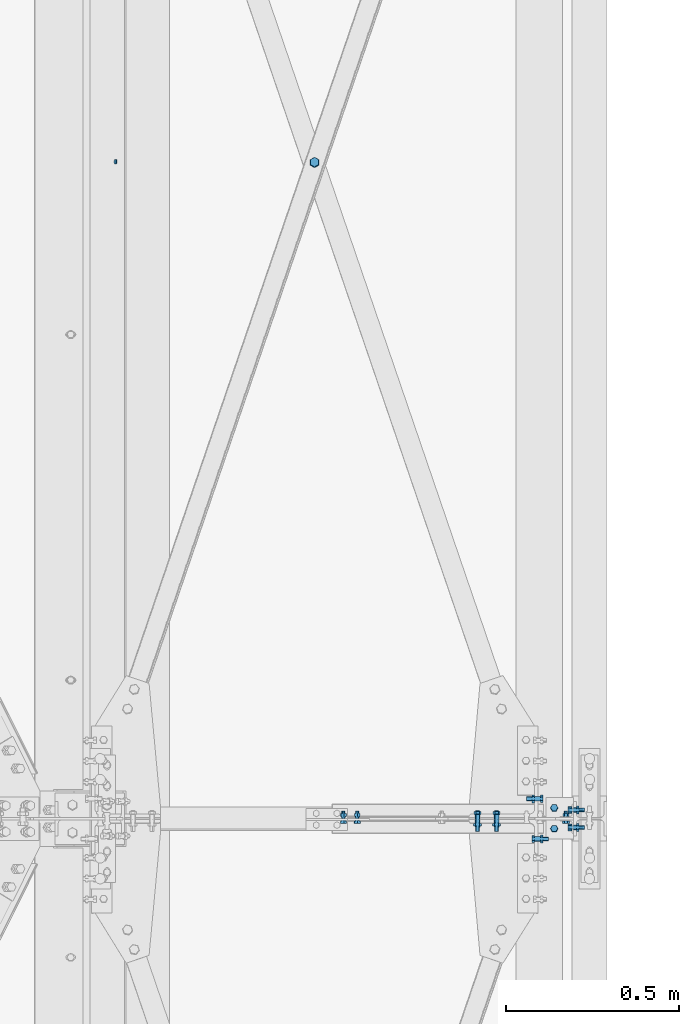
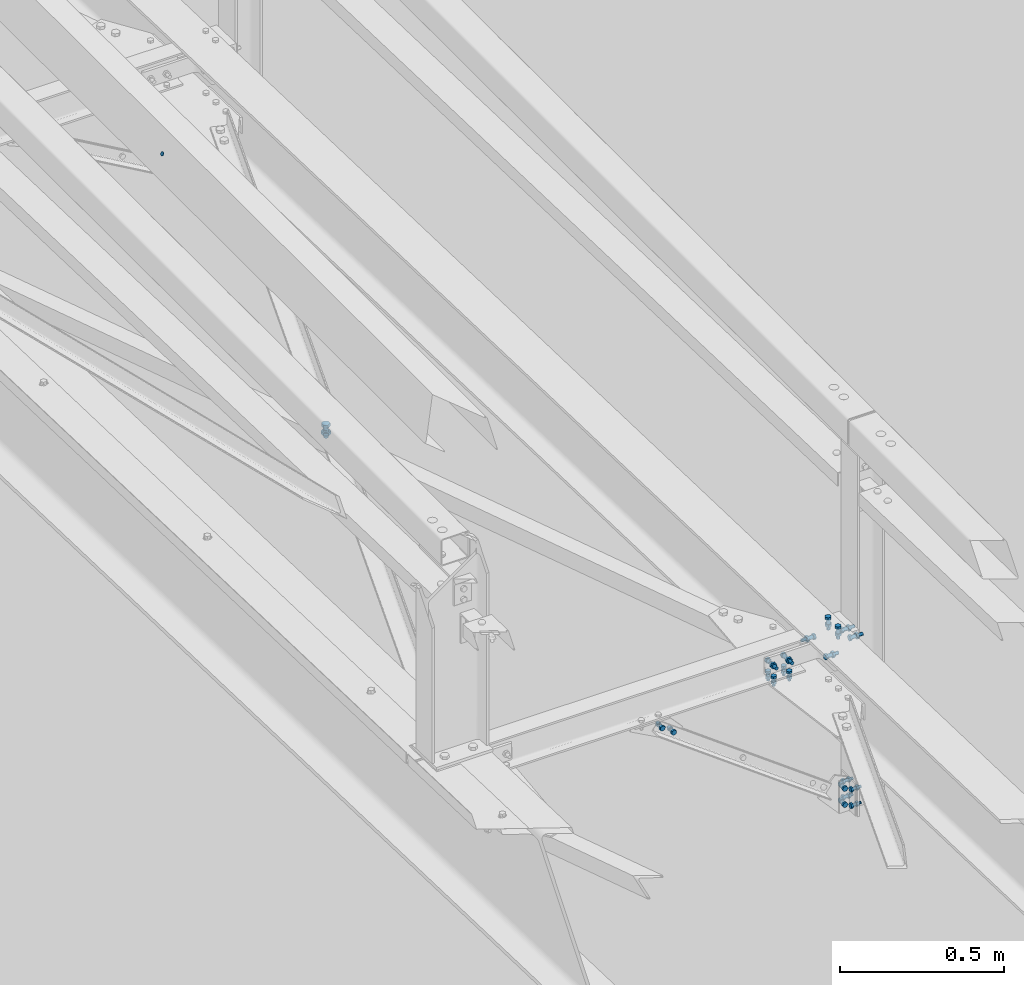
# One storey, part 328 of 362: 13 mechanical fasteners.
"""IFC2X3 building model written with IfcOpenShell, lengths in millimetres."""

import ifcopenshell
import ifcopenshell.guid

model = None  # the IFC model being written
_history = None  # IfcOwnerHistory: only IFC2X3 demands one
_inside = {}  # id of a spatial element -> (the spatial element, [elements in it])
_under = {}  # id of a project, library or spatial element -> (it, [spatial elements below it])
_declared = {}  # id of a project -> (the project, [libraries it declares])
_typed = {}  # id of a type object -> (the type object, [elements of that type])
_made_of = {}  # id of a material, layer set ... -> (it, [elements and type objects made of it])


def new_model(schema):
    """Start an empty IFC model of exactly this schema.

    Asked for "IFC4X3", IfcOpenShell would pick the latest addendum, in which some entities
    have other attributes; the version numbers below select the first issue.
    IFC2X3 requires an IfcOwnerHistory on every rooted entity: one is made here for all.
    """
    global model, _history
    if schema == "IFC4X3":
        model = ifcopenshell.file(schema_version=(4, 3, 0, 0))
    else:
        model = ifcopenshell.file(schema=schema)
    _inside.clear()
    _under.clear()
    _declared.clear()
    _typed.clear()
    _made_of.clear()
    _history = None
    if model.schema == "IFC2X3":
        org = make("IfcOrganization", Name="unknown")
        user = make(
            "IfcPersonAndOrganization",
            ThePerson=make("IfcPerson", FamilyName="unknown"),
            TheOrganization=org,
        )
        app = make(
            "IfcApplication",
            ApplicationDeveloper=org,
            Version="unknown",
            ApplicationFullName="unknown",
            ApplicationIdentifier="unknown",
        )
        _history = make(
            "IfcOwnerHistory",
            OwningUser=user,
            OwningApplication=app,
            ChangeAction="ADDED",
            CreationDate=0,
        )
    return model


def make(cls, **values):
    """One entity of the class cls with the attributes given. An attribute that is None is left unset."""
    return model.create_entity(
        cls, **{name: value for name, value in values.items() if value is not None}
    )


def rooted(cls, **values):
    """An entity with a GlobalId (a new one), such as an element, a storey or a relation."""
    return make(cls, GlobalId=ifcopenshell.guid.new(), OwnerHistory=_history, **values)


def si_unit(unit_type, name, prefix=None):
    """IfcSIUnit, for example si_unit("LENGTHUNIT", "METRE", prefix="MILLI")."""
    return make("IfcSIUnit", UnitType=unit_type, Prefix=prefix, Name=name)


def assignment(units):
    """IfcUnitAssignment: the units of a project."""
    return None if units is None else make("IfcUnitAssignment", Units=units)


def point(xyz):
    """IfcCartesianPoint."""
    return None if xyz is None else make("IfcCartesianPoint", Coordinates=xyz)


def direction(xyz):
    """IfcDirection."""
    return None if xyz is None else make("IfcDirection", DirectionRatios=xyz)


def frame(location, z_axis=None, x_axis=None):
    """IfcAxis2Placement3D, a coordinate frame: its origin and axes. An axis left out is left unset."""
    return make(
        "IfcAxis2Placement3D",
        Location=point(location),
        Axis=direction(z_axis),
        RefDirection=direction(x_axis),
    )


def frame_2d(location, x_axis=None):
    """IfcAxis2Placement2D, a coordinate frame in the plane: its origin and x axis."""
    return make(
        "IfcAxis2Placement2D", Location=point(location), RefDirection=direction(x_axis)
    )


def origin_with_axes():
    """The frame at (0, 0, 0) with the z axis (0, 0, 1) and the x axis (1, 0, 0) written out."""
    return frame((0.0, 0.0, 0.0), z_axis=(0.0, 0.0, 1.0), x_axis=(1.0, 0.0, 0.0))


def origin_2d_with_axis():
    """The frame at (0, 0) in the plane with the x axis (1, 0) written out."""
    return frame_2d((0.0, 0.0), x_axis=(1.0, 0.0))


def place(relative_to, where):
    """IfcLocalPlacement: puts the frame where relative to a parent placement (None: the world)."""
    return make(
        "IfcLocalPlacement", PlacementRelTo=relative_to, RelativePlacement=where
    )


def context(
    kind, dimensions, precision=None, world=None, true_north=None, identifier=None
):
    """IfcGeometricRepresentationContext, for example the 3D "Model" context."""
    return make(
        "IfcGeometricRepresentationContext",
        ContextIdentifier=identifier,
        ContextType=kind,
        CoordinateSpaceDimension=dimensions,
        Precision=precision,
        WorldCoordinateSystem=world,
        TrueNorth=true_north,
    )


def subcontext(parent, identifier, kind, view, scale=None):
    """IfcGeometricRepresentationSubContext, for example "Body" below "Model"."""
    return make(
        "IfcGeometricRepresentationSubContext",
        ContextIdentifier=identifier,
        ContextType=kind,
        ParentContext=parent,
        TargetScale=scale,
        TargetView=view,
    )


def project(units=None, contexts=None):
    """IfcProject with its units and contexts."""
    return rooted(
        "IfcProject",
        Name="project",
        RepresentationContexts=contexts,
        UnitsInContext=assignment(units),
    )


def spatial(cls, under=None, at=None, **own):
    """A site, building, storey or space (cls), placed at a placement, below another one or the project."""
    s = rooted(cls, ObjectPlacement=at, **own)
    if under is not None:
        _under.setdefault(under.id(), (under, []))[1].append(s)
    return s


def polyline(points):
    """IfcPolyline through the points."""
    return make("IfcPolyline", Points=[point(p) for p in points])


def profile(cls, at=None, kind="AREA", **sizes):
    """A parametric profile (cls). Its sizes go by their IFC names, for example OverallWidth=200.0."""
    return make(cls, ProfileType=kind, Position=at, **sizes)


def circle(**sizes):
    """IfcCircleProfileDef."""
    return profile("IfcCircleProfileDef", **sizes)


def outline(outer, holes=None, kind="AREA"):
    """IfcArbitraryClosedProfileDef: a profile drawn as a closed curve; with holes, ...WithVoids."""
    if holes is None:
        return make("IfcArbitraryClosedProfileDef", ProfileType=kind, OuterCurve=outer)
    return make(
        "IfcArbitraryProfileDefWithVoids",
        ProfileType=kind,
        OuterCurve=outer,
        InnerCurves=holes,
    )


def extrude(swept, where, along, depth):
    """IfcExtrudedAreaSolid: the profile swept, set in the frame where, extruded along a direction by depth."""
    return make(
        "IfcExtrudedAreaSolid",
        SweptArea=swept,
        Position=where,
        ExtrudedDirection=direction(along),
        Depth=depth,
    )


def shape(context_of_items, identifier, shape_type, items):
    """IfcShapeRepresentation: the items that make up one representation, for example the "Body"."""
    return make(
        "IfcShapeRepresentation",
        ContextOfItems=context_of_items,
        RepresentationIdentifier=identifier,
        RepresentationType=shape_type,
        Items=items,
    )


def source(mapping_origin, context_of_items, identifier, shape_type, items):
    """IfcRepresentationMap: a shape defined once, which mapped items show again and again."""
    return make(
        "IfcRepresentationMap",
        MappingOrigin=mapping_origin,
        MappedRepresentation=shape(context_of_items, identifier, shape_type, items),
    )


def transform(
    local_origin,
    x_axis=None,
    y_axis=None,
    z_axis=None,
    scale=None,
    scale2=None,
    scale3=None,
    uniform=True,
):
    """IfcCartesianTransformationOperator3D, or its non-uniform kind. x_axis, y_axis, z_axis: its Axis1, 2, 3."""
    if uniform:
        return make(
            "IfcCartesianTransformationOperator3D",
            Axis1=direction(x_axis),
            Axis2=direction(y_axis),
            LocalOrigin=point(local_origin),
            Scale=scale,
            Axis3=direction(z_axis),
        )
    return make(
        "IfcCartesianTransformationOperator3DnonUniform",
        Axis1=direction(x_axis),
        Axis2=direction(y_axis),
        LocalOrigin=point(local_origin),
        Scale=scale,
        Axis3=direction(z_axis),
        Scale2=scale2,
        Scale3=scale3,
    )


def mapped(mapping_source, mapping_target):
    """IfcMappedItem: shows the shape of a source again, moved by a transform."""
    return make(
        "IfcMappedItem", MappingSource=mapping_source, MappingTarget=mapping_target
    )


def material(Name=None, Category=None):
    """IfcMaterial."""
    return make("IfcMaterial", Name=Name, Category=Category)


def made_of(thing, what):
    """Note that an element or type object is made of a material, layer set ...; save() writes the relation."""
    if what is not None:
        _made_of.setdefault(what.id(), (what, []))[1].append(thing)
    return thing


def type_object(cls, material=None, **own):
    """A type object (cls), such as IfcWallType, which elements share."""
    return made_of(rooted(cls, **own), material)


def element(
    cls,
    number,
    at=None,
    inside=None,
    cuts=None,
    type_object=None,
    material=None,
    context=None,
    identifier="Body",
    shape_type=None,
    held_by="IfcProductDefinitionShape",
    body=None,
    shapes=None,
    **own,
):
    """One element of the class cls, such as IfcWall. Its Tag is "e" and its number.

    at: its placement. inside: the storey or other place that contains it. cuts: it is an
    opening in that element (IfcRelVoidsElement). A single representation is given by context,
    identifier, shape_type and body (its items); several are given by shapes. held_by: the class
    of the entity that holds the representations. save() writes the other relations.
    """
    e = rooted(cls, Tag="e%d" % number, ObjectPlacement=at, **own)
    if body is not None:
        shapes = [shape(context, identifier, shape_type, body)]
    if shapes is not None:
        e.Representation = make(held_by, Representations=shapes)
    if inside is not None:
        _inside.setdefault(inside.id(), (inside, []))[1].append(e)
    if cuts is not None:
        rooted(
            "IfcRelVoidsElement", RelatingBuildingElement=cuts, RelatedOpeningElement=e
        )
    if type_object is not None:
        _typed.setdefault(type_object.id(), (type_object, []))[1].append(e)
    return made_of(e, material)


def aggregate(whole, parts):
    """IfcRelAggregates: a whole, such as a stair, and the parts it consists of."""
    return rooted("IfcRelAggregates", RelatingObject=whole, RelatedObjects=parts)


def save(model, path):
    """Write the relations noted so far, then the file.

    IfcRelAggregates (storeys below a building ...), IfcRelContainedInSpatialStructure (elements
    in a storey), IfcRelDefinesByType, IfcRelAssociatesMaterial and IfcRelDeclares: one each for
    every whole, place, type object, material and project.
    """
    for whole, parts in _under.values():
        aggregate(whole, parts)
    for where, things in _inside.values():
        rooted(
            "IfcRelContainedInSpatialStructure",
            RelatedElements=things,
            RelatingStructure=where,
        )
    for kind, things in _typed.values():
        rooted("IfcRelDefinesByType", RelatedObjects=things, RelatingType=kind)
    for what, things in _made_of.values():
        rooted("IfcRelAssociatesMaterial", RelatedObjects=things, RelatingMaterial=what)
    for by, libraries in _declared.values():
        rooted("IfcRelDeclares", RelatingContext=by, RelatedDefinitions=libraries)
    model.write(path)


model = new_model("IFC2X3")

# Units and contexts
model_context = context("Model", 3, precision=1e-05, world=origin_with_axes())
body_context = subcontext(model_context, "Body", "Model", "MODEL_VIEW")
ifc_project = project(units=[si_unit("LENGTHUNIT", "METRE", prefix="MILLI"), si_unit("AREAUNIT", "SQUARE_METRE"), si_unit("VOLUMEUNIT", "CUBIC_METRE"), si_unit("MASSUNIT", "GRAM", prefix="KILO"), si_unit("TIMEUNIT", "SECOND"), si_unit("PLANEANGLEUNIT", "RADIAN"), si_unit("SOLIDANGLEUNIT", "STERADIAN"), si_unit("THERMODYNAMICTEMPERATUREUNIT", "DEGREE_CELSIUS"), si_unit("LUMINOUSINTENSITYUNIT", "LUMEN")], contexts=[model_context])

# Site, building, storey
site_placement = place(None, origin_with_axes())
site = spatial("IfcSite", under=ifc_project, at=site_placement, Name="Undefined", CompositionType="ELEMENT")
building_placement = place(site_placement, origin_with_axes())
building = spatial("IfcBuilding", under=site, at=building_placement, Name="Undefined", CompositionType="ELEMENT")
storey_placement = place(building_placement, origin_with_axes())
storey = spatial("IfcBuildingStorey", under=building, at=storey_placement, Name="Undefined", CompositionType="ELEMENT", Elevation=0.0)

# Mechanical fasteners
ifc_material_1 = material(Name="6.8")
mechanical_fastener_type = type_object("IfcMechanicalFastenerType", Name="Bolt assembly")
shared_shape_1 = source(origin_with_axes(), body_context, "Body", "SweptSolid", [
    extrude(circle(Radius=7.0, at=origin_2d_with_axis()), frame((0.0, 0.0, 0.0), z_axis=(0.0, 1.0, 0.0), x_axis=(1.0, 0.0, 0.0)), (0.0, 0.0, 1.0), 3.1),
])
mechanical_fastener_1_placement = place(storey_placement, frame((38403.4787428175, 9500.0, 8852.76597264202), z_axis=(0.0, -1.0, 0.0), x_axis=(-0.441220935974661, 0.0, -0.89739850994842)))
element("IfcMechanicalFastener", 1, at=mechanical_fastener_1_placement, inside=storey, type_object=mechanical_fastener_type, material=ifc_material_1, Name="Bolt assembly", NominalDiameter=12.0, NominalLength=3.0, context=body_context, shape_type="MappedRepresentation", body=[
    mapped(shared_shape_1, transform((0.0, 0.0, 0.0))),
])
shared_shape_2 = source(origin_with_axes(), body_context, "Body", "SweptSolid", [
    extrude(circle(Radius=6.0, at=origin_2d_with_axis()), frame((0.0, -6.9, 0.0), z_axis=(0.0, 1.0, 0.0), x_axis=(1.0, 0.0, 0.0)), (0.0, 0.0, 1.0), 4.0),
    extrude(circle(Radius=6.0, at=origin_2d_with_axis()), frame((0.0, 2.90000527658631, 0.0), z_axis=(0.0, 1.0, 0.0), x_axis=(1.0, 0.0, 0.0)), (0.0, 0.0, 1.0), 4.1),
    extrude(circle(Radius=6.0, at=origin_2d_with_axis()), frame((0.0, -2.99999932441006, 0.0), z_axis=(0.0, 1.0, 0.0), x_axis=(1.0, 0.0, 0.0)), (0.0, 0.0, 1.0), 6.0),
    extrude(outline(polyline([(9.81495457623, 0.0), (4.907477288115, 8.5000000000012), (-4.907477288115, 8.5000000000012), (-9.81495457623, 0.0), (-4.907477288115, -8.5000000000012), (4.907477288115, -8.5000000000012), (9.81495457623, 0.0)])), frame((0.0, -14.5000000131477, 0.0), z_axis=(0.0, 1.0, 0.0), x_axis=(1.0, 0.0, 0.0)), (0.0, 0.0, 1.0), 7.5),
    extrude(circle(Radius=5.0, at=origin_2d_with_axis()), frame((0.0, -7.0, 0.0), z_axis=(0.0, 1.0, 0.0), x_axis=(1.0, 0.0, 0.0)), (0.0, 0.0, 1.0), 30.0),
    extrude(outline(polyline([(9.23760430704, 0.0), (4.61880215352, 8.00000000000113), (-4.61880215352, 8.00000000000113), (-9.23760430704, 0.0), (-4.61880215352, -8.00000000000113), (4.61880215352, -8.00000000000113), (9.23760430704, 0.0)])), frame((0.0, 7.0, 0.0), z_axis=(0.0, 1.0, 0.0), x_axis=(1.0, 0.0, 0.0)), (0.0, 0.0, 1.0), 8.4),
])
mechanical_fastener_2_placement = place(storey_placement, frame((39707.0000003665, 7600.0, 7160.00000925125), z_axis=(0.0, 0.0, 1.0), x_axis=(1.0, 0.0, 0.0)))
element("IfcMechanicalFastener", 2, at=mechanical_fastener_2_placement, inside=storey, type_object=mechanical_fastener_type, material=ifc_material_1, Name="Bolt assembly", NominalDiameter=10.0, NominalLength=30.0, context=body_context, shape_type="MappedRepresentation", body=[
    mapped(shared_shape_2, transform((0.0, 0.0, -30.0))),
    mapped(shared_shape_2, transform((0.0, 0.0, 30.0))),
])
shared_shape_3 = source(origin_with_axes(), body_context, "Body", "SweptSolid", [
    extrude(circle(Radius=6.0, at=origin_2d_with_axis()), frame((0.0, -6.89961591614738, 0.0), z_axis=(0.0, 1.0, 0.0), x_axis=(1.0, 0.0, 0.0)), (0.0, 0.0, 1.0), 4.0),
    extrude(circle(Radius=6.0, at=origin_2d_with_axis()), frame((0.0, 2.90038411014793, 0.0), z_axis=(0.0, 1.0, 0.0), x_axis=(1.0, 0.0, 0.0)), (0.0, 0.0, 1.0), 4.1),
    extrude(circle(Radius=6.0, at=origin_2d_with_axis()), frame((0.0, -4.88000000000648, 0.0), z_axis=(0.0, 1.0, 0.0), x_axis=(1.0, 0.0, 0.0)), (0.0, 0.0, 1.0), 6.0),
    extrude(outline(polyline([(9.81495457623, 0.0), (4.907477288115, 8.5000000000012), (-4.907477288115, 8.5000000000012), (-9.81495457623, 0.0), (-4.907477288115, -8.5000000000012), (4.907477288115, -8.5000000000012), (9.81495457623, 0.0)])), frame((0.0, -14.4996159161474, 0.0), z_axis=(0.0, 1.0, 0.0), x_axis=(1.0, 0.0, 0.0)), (0.0, 0.0, 1.0), 7.5),
    extrude(circle(Radius=5.0, at=origin_2d_with_axis()), frame((0.0, -6.99961591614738, 0.0), z_axis=(0.0, 1.0, 0.0), x_axis=(1.0, 0.0, 0.0)), (0.0, 0.0, 1.0), 30.0),
    extrude(outline(polyline([(9.23760430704, 0.0), (4.61880215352, 8.00000000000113), (-4.61880215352, 8.00000000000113), (-9.23760430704, 0.0), (-4.61880215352, -8.00000000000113), (4.61880215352, -8.00000000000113), (9.23760430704, 0.0)])), frame((0.0, 7.00036854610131, 0.0), z_axis=(0.0, 1.0, 0.0), x_axis=(1.0, 0.0, 0.0)), (0.0, 0.0, 1.0), 8.4),
])
mechanical_fastener_3_placement = place(storey_placement, frame((39063.4182154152, 7600.0, 7640.66354528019), z_axis=(0.593383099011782, 0.0, 0.804920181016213), x_axis=(0.804920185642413, 0.0, -0.593383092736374)))
element("IfcMechanicalFastener", 3, at=mechanical_fastener_3_placement, inside=storey, type_object=mechanical_fastener_type, material=ifc_material_1, Name="Bolt assembly", NominalDiameter=10.0, NominalLength=30.0, context=body_context, shape_type="MappedRepresentation", body=[
    mapped(shared_shape_3, transform((0.0, 0.0, 0.0))),
    mapped(shared_shape_3, transform((49.9999999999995, 0.0, -3.63797880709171e-12))),
])
shared_shape_4 = source(origin_with_axes(), body_context, "Body", "SweptSolid", [
    extrude(circle(Radius=6.0, at=origin_2d_with_axis()), frame((0.0, -0.100011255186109, 0.0), z_axis=(0.0, 1.0, 0.0), x_axis=(1.0, 0.0, 0.0)), (0.0, 0.0, 1.0), 8.1),
    extrude(circle(Radius=6.0, at=origin_2d_with_axis()), frame((0.0, -3.89999843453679, 0.0), z_axis=(0.0, 1.0, 0.0), x_axis=(1.0, 0.0, 0.0)), (0.0, 0.0, 1.0), 4.0),
    extrude(outline(polyline([(9.81495457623, 0.0), (4.907477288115, 8.5000000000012), (-4.907477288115, 8.5000000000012), (-9.81495457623, 0.0), (-4.907477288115, -8.5000000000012), (4.907477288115, -8.5000000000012), (9.81495457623, 0.0)])), frame((0.0, -11.5, 0.0), z_axis=(0.0, 1.0, 0.0), x_axis=(1.0, 0.0, 0.0)), (0.0, 0.0, 1.0), 7.5),
    extrude(circle(Radius=5.0, at=origin_2d_with_axis()), frame((0.0, -3.99999923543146, 0.0), z_axis=(0.0, 1.0, 0.0), x_axis=(1.0, 0.0, 0.0)), (0.0, 0.0, 1.0), 30.0),
    extrude(outline(polyline([(9.23760430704, 0.0), (4.61880215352, 8.00000000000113), (-4.61880215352, 8.00000000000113), (-9.23760430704, 0.0), (-4.61880215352, -8.00000000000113), (4.61880215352, -8.00000000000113), (9.23760430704, 0.0)])), frame((0.0, 8.00000527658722, 0.0), z_axis=(0.0, 1.0, 0.0), x_axis=(1.0, 0.0, 0.0)), (0.0, 0.0, 1.0), 8.4),
])
for number, where, z_axis, x_axis, name in (
    (4, (39729.0000003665, 7625.0, 7160.00000925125), (0.0, 0.0, 1.0), (0.0, -1.0, 0.0), "Bolt assembly"),
    (5, (39729.0000003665, 7575.0, 7160.00000925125), (0.0, 0.0, -1.0), (0.0, 1.0, 0.0), "Bolt assembly"),
):
    element("IfcMechanicalFastener", number, at=place(storey_placement, frame(where, z_axis=z_axis, x_axis=x_axis)), inside=storey, type_object=mechanical_fastener_type, material=ifc_material_1, Name=name, NominalDiameter=10.0, NominalLength=30.0, context=body_context, shape_type="MappedRepresentation", body=[
        mapped(shared_shape_4, transform((0.0, 0.0, -30.0))),
        mapped(shared_shape_4, transform((0.0, 0.0, 30.0))),
    ])
ifc_material_2 = material(Name="#_SB-8.8-ZINGUE")
shared_shape_5 = source(origin_with_axes(), body_context, "Body", "SweptSolid", [
    extrude(circle(Radius=7.0, at=origin_2d_with_axis()), frame((0.0, -10.0999860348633, 0.0), z_axis=(0.0, 1.0, 0.0), x_axis=(1.0, 0.0, 0.0)), (0.0, 0.0, 1.0), 10.2),
    extrude(circle(Radius=7.0, at=origin_2d_with_axis()), frame((0.0, -0.100011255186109, 0.0), z_axis=(0.0, 1.0, 0.0), x_axis=(1.0, 0.0, 0.0)), (0.0, 0.0, 1.0), 8.1),
    extrude(outline(polyline([(10.39230484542, 0.0), (5.19615242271, 9.00000000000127), (-5.19615242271, 9.00000000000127), (-10.39230484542, 0.0), (-5.19615242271, -9.00000000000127), (5.19615242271, -9.00000000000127), (10.39230484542, 0.0)])), frame((0.0, -18.1199860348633, 0.0), z_axis=(0.0, 1.0, 0.0), x_axis=(1.0, 0.0, 0.0)), (0.0, 0.0, 1.0), 7.92),
    extrude(circle(Radius=6.0, at=origin_2d_with_axis()), frame((0.0, -10.1999860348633, 0.0), z_axis=(0.0, 1.0, 0.0), x_axis=(1.0, 0.0, 0.0)), (0.0, 0.0, 1.0), 40.0),
    extrude(outline(polyline([(11.5008173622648, 0.0), (5.7504086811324, 9.96000000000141), (-5.7504086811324, 9.96000000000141), (-11.5008173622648, 0.0), (-5.7504086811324, -9.96000000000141), (5.7504086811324, -9.96000000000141), (11.5008173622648, 0.0)])), frame((0.0, 8.00000527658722, 0.0), z_axis=(0.0, 1.0, 0.0), x_axis=(1.0, 0.0, 0.0)), (0.0, 0.0, 1.0), 7.92),
])
mechanical_fastener_4_placement = place(storey_placement, frame((39673.0, 7601.41348424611, 7800.91092266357), z_axis=(3.14103090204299e-11, 0.999506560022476, -0.0314107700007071), x_axis=(1.0, 0.0, 0.0)))
element("IfcMechanicalFastener", 6, at=mechanical_fastener_4_placement, inside=storey, type_object=mechanical_fastener_type, material=ifc_material_2, Name="Bolt assembly", NominalDiameter=12.0, NominalLength=40.0, context=body_context, shape_type="MappedRepresentation", body=[
    mapped(shared_shape_5, transform((0.0, 0.0, -30.0))),
    mapped(shared_shape_5, transform((0.0, 0.0, 30.0))),
])
shared_shape_6 = source(origin_with_axes(), body_context, "Body", "SweptSolid", [
    extrude(circle(Radius=7.0, at=origin_2d_with_axis()), frame((0.0, -0.100011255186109, 0.0), z_axis=(0.0, 1.0, 0.0), x_axis=(1.0, 0.0, 0.0)), (0.0, 0.0, 1.0), 8.1),
    extrude(circle(Radius=7.0, at=origin_2d_with_axis()), frame((0.0, -7.9, 0.0), z_axis=(0.0, 1.0, 0.0), x_axis=(1.0, 0.0, 0.0)), (0.0, 0.0, 1.0), 8.0),
    extrude(outline(polyline([(10.39230484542, 0.0), (5.19615242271, 9.00000000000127), (-5.19615242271, 9.00000000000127), (-10.39230484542, 0.0), (-5.19615242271, -9.00000000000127), (5.19615242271, -9.00000000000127), (10.39230484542, 0.0)])), frame((0.0, -15.92, 0.0), z_axis=(0.0, 1.0, 0.0), x_axis=(1.0, 0.0, 0.0)), (0.0, 0.0, 1.0), 7.92),
    extrude(circle(Radius=6.0, at=origin_2d_with_axis()), frame((0.0, -8.0, 0.0), z_axis=(0.0, 1.0, 0.0), x_axis=(1.0, 0.0, 0.0)), (0.0, 0.0, 1.0), 40.0),
    extrude(outline(polyline([(11.5008173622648, 0.0), (5.7504086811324, 9.96000000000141), (-5.7504086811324, 9.96000000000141), (-11.5008173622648, 0.0), (-5.7504086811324, -9.96000000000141), (5.7504086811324, -9.96000000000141), (11.5008173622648, 0.0)])), frame((0.0, 8.00000527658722, 0.0), z_axis=(0.0, 1.0, 0.0), x_axis=(1.0, 0.0, 0.0)), (0.0, 0.0, 1.0), 7.92),
])
for number, where, z_axis, x_axis, name in (
    (7, (39729.0, 7625.0000000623, 7755.14747079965), (-1.05403257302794e-09, -0.0314112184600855, -0.999506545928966), (3.14103090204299e-11, 0.999506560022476, -0.0314107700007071), "Bolt assembly"),
    (8, (39729.0, 7575.00000007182, 7756.71878409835), (7.58071938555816e-11, 0.0314107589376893, 0.999506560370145), (0.0, -0.999506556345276, 0.031410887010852), "Bolt assembly"),
):
    element("IfcMechanicalFastener", number, at=place(storey_placement, frame(where, z_axis=z_axis, x_axis=x_axis)), inside=storey, type_object=mechanical_fastener_type, material=ifc_material_2, Name=name, NominalDiameter=12.0, NominalLength=40.0, context=body_context, shape_type="MappedRepresentation", body=[
        mapped(shared_shape_6, transform((0.0, 0.0, 0.0))),
    ])
ifc_material_3 = material(Name="8.8-SB-ZINGUE")
shared_shape_7 = source(origin_with_axes(), body_context, "Body", "SweptSolid", [
    extrude(circle(Radius=9.0, at=origin_2d_with_axis()), frame((0.0, 2.90155927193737, 0.0), z_axis=(0.0, 1.0, 0.0), x_axis=(1.0, 0.0, 0.0)), (0.0, 0.0, 1.0), 6.1),
    extrude(circle(Radius=9.0, at=origin_2d_with_axis()), frame((0.0, -8.89838529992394, 0.0), z_axis=(0.0, 1.0, 0.0), x_axis=(1.0, 0.0, 0.0)), (0.0, 0.0, 1.0), 6.0),
    extrude(outline(polyline([(13.85640646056, 0.0), (6.92820323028, 12.0000000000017), (-6.92820323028, 12.0000000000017), (-13.85640646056, 0.0), (-6.92820323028, -12.0000000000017), (6.92820323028, -12.0000000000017), (13.85640646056, 0.0)])), frame((0.0, -19.5583852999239, 0.0), z_axis=(0.0, 1.0, 0.0), x_axis=(1.0, 0.0, 0.0)), (0.0, 0.0, 1.0), 10.56),
    extrude(circle(Radius=8.0, at=origin_2d_with_axis()), frame((0.0, -8.99838529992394, 0.0), z_axis=(0.0, 1.0, 0.0), x_axis=(1.0, 0.0, 0.0)), (0.0, 0.0, 1.0), 40.0),
    extrude(outline(polyline([(15.3344231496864, 0.0), (7.6672115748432, 13.2800000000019), (-7.6672115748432, 13.2800000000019), (-15.3344231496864, 0.0), (-7.6672115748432, -13.2800000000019), (7.6672115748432, -13.2800000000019), (15.3344231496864, 0.0)])), frame((0.0, 9.001559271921, 0.0), z_axis=(0.0, 1.0, 0.0), x_axis=(1.0, 0.0, 0.0)), (0.0, 0.0, 1.0), 10.56),
])
mechanical_fastener_5_placement = place(storey_placement, frame((38980.0000151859, 9498.02020154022, 7628.45196651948), z_axis=(-1.0, 0.0, 0.0), x_axis=(3.14103090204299e-11, 0.999506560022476, -0.0314107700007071)))
element("IfcMechanicalFastener", 9, at=mechanical_fastener_5_placement, inside=storey, type_object=mechanical_fastener_type, material=ifc_material_3, Name="Bolt assembly", NominalDiameter=16.0, NominalLength=40.0, context=body_context, shape_type="MappedRepresentation", body=[
    mapped(shared_shape_7, transform((0.0, 0.0, 0.0))),
])
shared_shape_8 = source(origin_with_axes(), body_context, "Body", "SweptSolid", [
    extrude(circle(Radius=6.0, at=origin_2d_with_axis()), frame((0.0, -6.19999893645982, 0.0), z_axis=(0.0, 1.0, 0.0), x_axis=(1.0, 0.0, 0.0)), (0.0, 0.0, 1.0), 6.3),
    extrude(circle(Radius=6.0, at=origin_2d_with_axis()), frame((0.0, -0.10007666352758, 0.0), z_axis=(0.0, 1.0, 0.0), x_axis=(1.0, 0.0, 0.0)), (0.0, 0.0, 1.0), 6.1),
    extrude(outline(polyline([(9.81495457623, 0.0), (4.907477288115, 8.5000000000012), (-4.907477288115, 8.5000000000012), (-9.81495457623, 0.0), (-4.907477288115, -8.5000000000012), (4.907477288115, -8.5000000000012), (9.81495457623, 0.0)])), frame((0.0, -13.7999989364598, 0.0), z_axis=(0.0, 1.0, 0.0), x_axis=(1.0, 0.0, 0.0)), (0.0, 0.0, 1.0), 7.5),
    extrude(circle(Radius=5.0, at=origin_2d_with_axis()), frame((0.0, -6.29999893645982, 0.0), z_axis=(0.0, 1.0, 0.0), x_axis=(1.0, 0.0, 0.0)), (0.0, 0.0, 1.0), 30.0),
    extrude(outline(polyline([(9.23760430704, 0.0), (4.61880215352, 8.00000000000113), (-4.61880215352, 8.00000000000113), (-9.23760430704, 0.0), (-4.61880215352, -8.00000000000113), (4.61880215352, -8.00000000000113), (9.23760430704, 0.0)])), frame((0.0, 6.0, 0.0), z_axis=(0.0, 1.0, 0.0), x_axis=(1.0, 0.0, 0.0)), (0.0, 0.0, 1.0), 8.4),
])
mechanical_fastener_6_placement = place(storey_placement, frame((39451.5000116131, 7598.11577224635, 7691.16029627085), z_axis=(3.14103090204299e-11, 0.999506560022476, -0.0314107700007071), x_axis=(1.0, 0.0, 0.0)))
element("IfcMechanicalFastener", 10, at=mechanical_fastener_6_placement, inside=storey, type_object=mechanical_fastener_type, material=ifc_material_1, Name="Bolt assembly", NominalDiameter=10.0, NominalLength=30.0, context=body_context, shape_type="MappedRepresentation", body=[
    mapped(shared_shape_8, transform((0.0, 3.18323145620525e-11, -16.9999999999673))),
    mapped(shared_shape_8, transform((55.0, 8.18545231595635e-12, -16.9999999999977))),
    mapped(shared_shape_8, transform((0.0, -3.18323145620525e-11, 16.9999999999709))),
    mapped(shared_shape_8, transform((55.0, -7.27595761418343e-12, 16.9999999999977))),
])
shared_shape_9 = source(origin_with_axes(), body_context, "Body", "SweptSolid", [
    extrude(circle(Radius=7.0, at=origin_2d_with_axis()), frame((0.0, -1.69999995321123, 0.0), z_axis=(0.0, 1.0, 0.0), x_axis=(1.0, 0.0, 0.0)), (0.0, 0.0, 1.0), 6.6),
    extrude(circle(Radius=7.0, at=origin_2d_with_axis()), frame((0.0, 4.9000000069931, 0.0), z_axis=(0.0, 1.0, 0.0), x_axis=(1.0, 0.0, 0.0)), (0.0, 0.0, 1.0), 10.1),
    extrude(outline(polyline([(10.39230484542, 0.0), (5.19615242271, 9.00000000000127), (-5.19615242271, 9.00000000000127), (-10.39230484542, 0.0), (-5.19615242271, -9.00000000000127), (5.19615242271, -9.00000000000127), (10.39230484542, 0.0)])), frame((0.0, -9.71999995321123, 0.0), z_axis=(0.0, 1.0, 0.0), x_axis=(1.0, 0.0, 0.0)), (0.0, 0.0, 1.0), 7.92),
    extrude(circle(Radius=6.0, at=origin_2d_with_axis()), frame((0.0, -1.79999995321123, 0.0), z_axis=(0.0, 1.0, 0.0), x_axis=(1.0, 0.0, 0.0)), (0.0, 0.0, 1.0), 40.0),
    extrude(outline(polyline([(11.5008173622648, 0.0), (5.7504086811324, 9.96000000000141), (-5.7504086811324, 9.96000000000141), (-11.5008173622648, 0.0), (-5.7504086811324, -9.96000000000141), (5.7504086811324, -9.96000000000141), (11.5008173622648, 0.0)])), frame((0.0, 15.0000000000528, 0.0), z_axis=(0.0, 1.0, 0.0), x_axis=(1.0, 0.0, 0.0)), (0.0, 0.0, 1.0), 7.92),
])
mechanical_fastener_7_placement = place(storey_placement, frame((39631.5, 7657.65812092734, 7739.31376095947), z_axis=(-1.05403257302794e-09, -0.0314112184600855, -0.999506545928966), x_axis=(0.0, -0.999506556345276, 0.031410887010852)))
element("IfcMechanicalFastener", 11, at=mechanical_fastener_7_placement, inside=storey, type_object=mechanical_fastener_type, material=ifc_material_3, Name="Bolt assembly", NominalDiameter=12.0, NominalLength=40.0, context=body_context, shape_type="MappedRepresentation", body=[
    mapped(shared_shape_9, transform((0.0, 0.0, 0.0))),
])
shared_shape_10 = source(origin_with_axes(), body_context, "Body", "SweptSolid", [
    extrude(circle(Radius=7.0, at=origin_2d_with_axis()), frame((0.0, -4.90000000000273, 0.0), z_axis=(0.0, 1.0, 0.0), x_axis=(1.0, 0.0, 0.0)), (0.0, 0.0, 1.0), 6.7),
    extrude(circle(Radius=7.0, at=origin_2d_with_axis()), frame((0.0, -14.899999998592, 0.0), z_axis=(0.0, 1.0, 0.0), x_axis=(1.0, 0.0, 0.0)), (0.0, 0.0, 1.0), 10.0),
    extrude(outline(polyline([(10.39230484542, 0.0), (5.19615242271, 9.00000000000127), (-5.19615242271, 9.00000000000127), (-10.39230484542, 0.0), (-5.19615242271, -9.00000000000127), (5.19615242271, -9.00000000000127), (10.39230484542, 0.0)])), frame((0.0, -22.919999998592, 0.0), z_axis=(0.0, 1.0, 0.0), x_axis=(1.0, 0.0, 0.0)), (0.0, 0.0, 1.0), 7.92),
    extrude(circle(Radius=6.0, at=origin_2d_with_axis()), frame((0.0, -14.999999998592, 0.0), z_axis=(0.0, 1.0, 0.0), x_axis=(1.0, 0.0, 0.0)), (0.0, 0.0, 1.0), 40.0),
    extrude(outline(polyline([(11.5008173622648, 0.0), (5.7504086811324, 9.96000000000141), (-5.7504086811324, 9.96000000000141), (-11.5008173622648, 0.0), (-5.7504086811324, -9.96000000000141), (5.7504086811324, -9.96000000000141), (11.5008173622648, 0.0)])), frame((0.0, 1.79999995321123, 0.0), z_axis=(0.0, 1.0, 0.0), x_axis=(1.0, 0.0, 0.0)), (0.0, 0.0, 1.0), 7.92),
])
mechanical_fastener_8_placement = place(storey_placement, frame((39631.5, 7541.71450220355, 7742.95756697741), z_axis=(-1.05403257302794e-09, -0.0314112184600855, -0.999506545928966), x_axis=(3.14103090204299e-11, 0.999506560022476, -0.0314107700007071)))
element("IfcMechanicalFastener", 12, at=mechanical_fastener_8_placement, inside=storey, type_object=mechanical_fastener_type, material=ifc_material_3, Name="Bolt assembly", NominalDiameter=12.0, NominalLength=40.0, context=body_context, shape_type="MappedRepresentation", body=[
    mapped(shared_shape_10, transform((0.0, 0.0, 0.0))),
])
shared_shape_11 = source(origin_with_axes(), body_context, "Body", "SweptSolid", [
    extrude(circle(Radius=7.0, at=origin_2d_with_axis()), frame((0.0, -2.20000854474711, 0.0), z_axis=(0.0, 1.0, 0.0), x_axis=(1.0, 0.0, 0.0)), (0.0, 0.0, 1.0), 4.4),
    extrude(circle(Radius=7.0, at=origin_2d_with_axis()), frame((0.0, 2.90000527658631, 0.0), z_axis=(0.0, 1.0, 0.0), x_axis=(1.0, 0.0, 0.0)), (0.0, 0.0, 1.0), 10.1),
    extrude(circle(Radius=7.0, at=origin_2d_with_axis()), frame((0.0, -12.9008585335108, 0.0), z_axis=(0.0, 1.0, 0.0), x_axis=(1.0, 0.0, 0.0)), (0.0, 0.0, 1.0), 10.0),
    extrude(outline(polyline([(10.39230484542, 0.0), (5.19615242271, 9.00000000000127), (-5.19615242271, 9.00000000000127), (-10.39230484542, 0.0), (-5.19615242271, -9.00000000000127), (5.19615242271, -9.00000000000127), (10.39230484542, 0.0)])), frame((0.0, -20.9208585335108, 0.0), z_axis=(0.0, 1.0, 0.0), x_axis=(1.0, 0.0, 0.0)), (0.0, 0.0, 1.0), 7.92),
    extrude(circle(Radius=6.0, at=origin_2d_with_axis()), frame((0.0, -13.0008585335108, 0.0), z_axis=(0.0, 1.0, 0.0), x_axis=(1.0, 0.0, 0.0)), (0.0, 0.0, 1.0), 50.0),
    extrude(outline(polyline([(11.5008173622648, 0.0), (5.7504086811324, 9.96000000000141), (-5.7504086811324, 9.96000000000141), (-11.5008173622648, 0.0), (-5.7504086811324, -9.96000000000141), (5.7504086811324, -9.96000000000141), (11.5008173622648, 0.0)])), frame((0.0, 13.0000006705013, 0.0), z_axis=(0.0, 1.0, 0.0), x_axis=(1.0, 0.0, 0.0)), (0.0, 0.0, 1.0), 7.92),
])
mechanical_fastener_9_placement = place(storey_placement, frame((39451.5, 7599.68588412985, 7741.13566965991), z_axis=(-1.05403257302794e-09, -0.0314112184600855, -0.999506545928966), x_axis=(1.0, 0.0, 0.0)))
element("IfcMechanicalFastener", 13, at=mechanical_fastener_9_placement, inside=storey, type_object=mechanical_fastener_type, material=ifc_material_3, Name="Bolt assembly", NominalDiameter=12.0, NominalLength=50.0, context=body_context, shape_type="MappedRepresentation", body=[
    mapped(shared_shape_11, transform((0.0, 0.0, 0.0))),
    mapped(shared_shape_11, transform((55.0000000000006, -1.81898940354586e-10, 0.0))),
])

save(model, "model.ifc")
